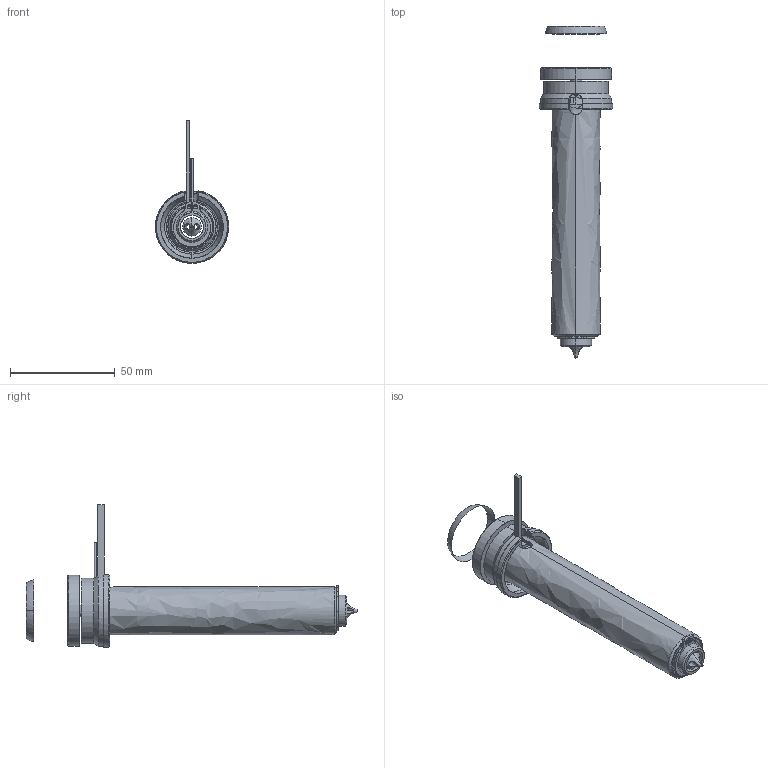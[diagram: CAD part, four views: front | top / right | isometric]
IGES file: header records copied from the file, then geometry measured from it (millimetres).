
Start section: SolidWorks IGES file using analytic representation for surfaces
Global section: file name: C:\Users\luca.EMPAD\Desktop\TEM\UGDL2603-M-A [Øf=1.0 ØC=5.5].IGS; native system: SolidWorks 2012; preprocessor: SolidWorks 2012; author: luca; date: 120330.144947; units: millimetre
Bounding box: 35 x 158.84 x 68.3 mm (x, y, z)
Surface area: 33417.6 mm2 (no closed solid volume)
Topology: 0 solids, 0 shells, 136 faces, 2214 edges, 2210 vertices
Faces by surface type: revolution 76, bspline 60
